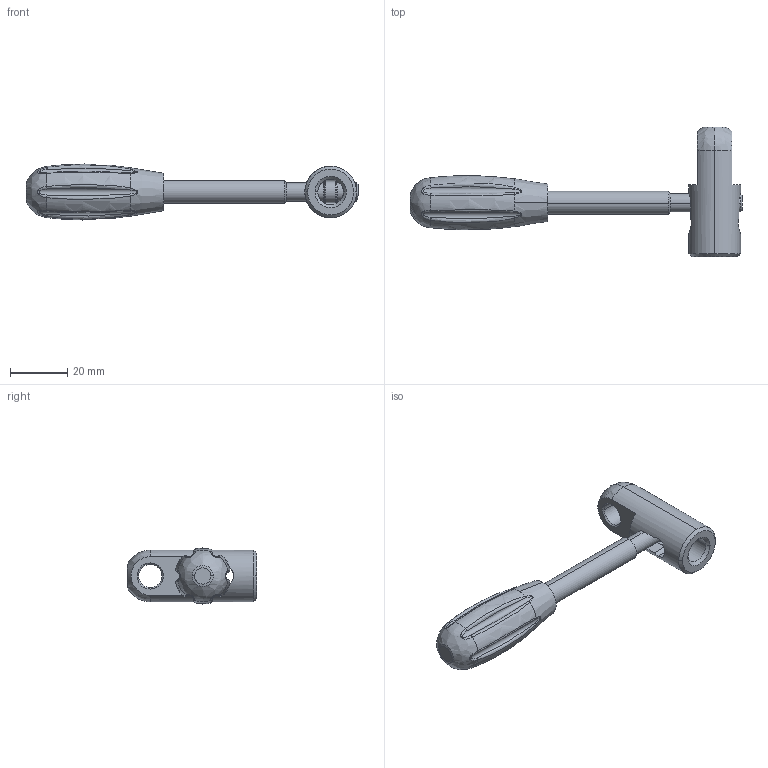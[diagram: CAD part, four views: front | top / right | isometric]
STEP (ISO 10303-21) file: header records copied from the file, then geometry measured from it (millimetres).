
FILE_DESCRIPTION (( 'STEP AP214' ), '1' );
FILE_NAME ('203 200 323.STEP', '2018-04-10T14:51:27', ( '' ), ( '' ), 'SwSTEP 2.0', 'SolidWorks 2017', '' );
FILE_SCHEMA (( 'AUTOMOTIVE_DESIGN' ));
Length unit declared in the file: millimetre
Products named in the file (1): 203 200 323
Bounding box: 115.5 x 45 x 19.5 mm (x, y, z)
Volume: 20746.5 mm3; surface area: 10394.4 mm2
Topology: 3 solids, 3 shells, 108 faces, 270 edges, 163 vertices
Faces by surface type: bspline 33, cylinder 32, cone 22, plane 15, torus 6
Entity records: 10448 total; most frequent: CARTESIAN_POINT 6908, ORIENTED_EDGE 528, DIRECTION 400, EDGE_CURVE 264, AXIS2_PLACEMENT_3D 166, VERTEX_POINT 163, EDGE_LOOP 115, UNCERTAINTY_MEASURE_WITH_UNIT 113
